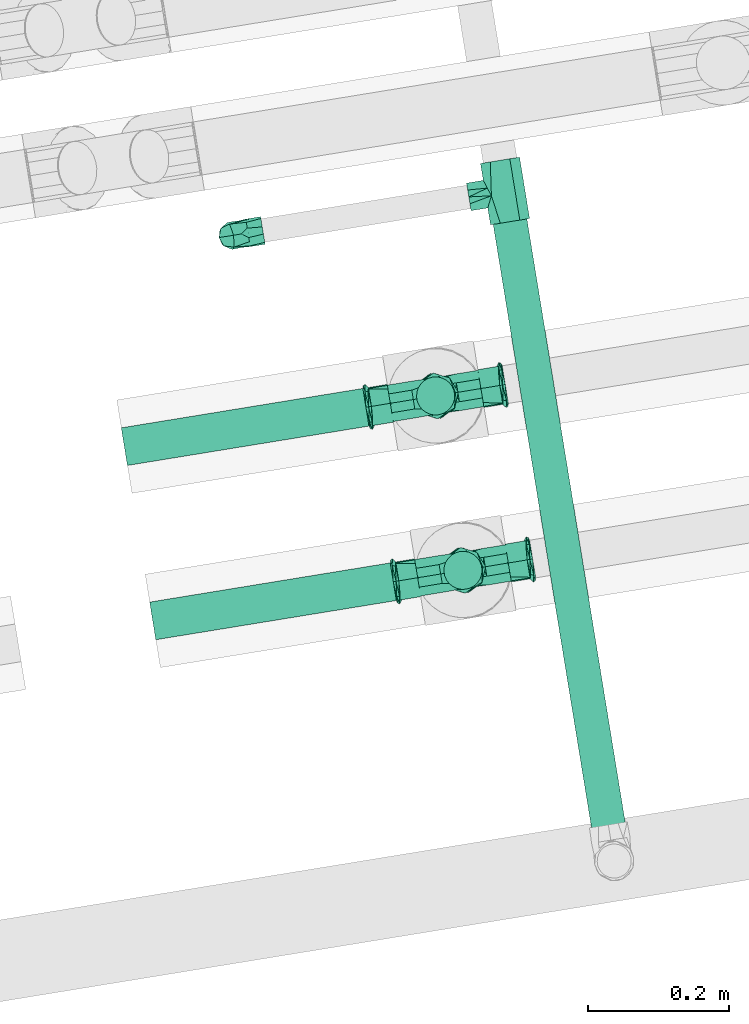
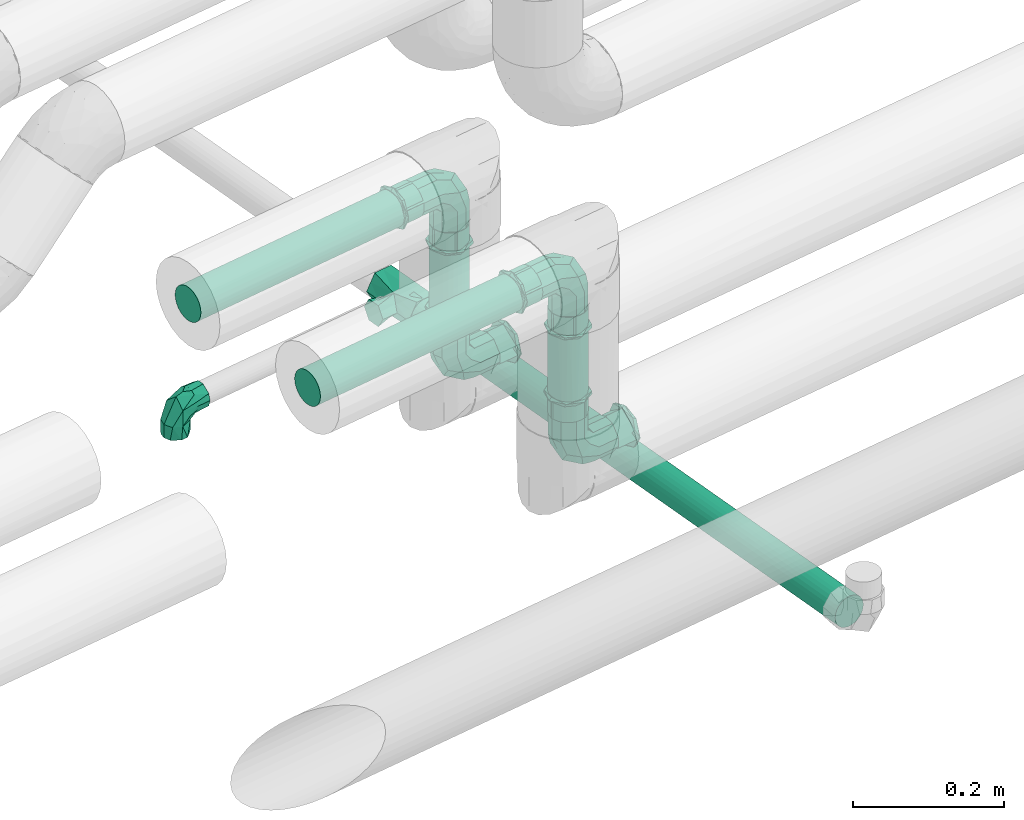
# One storey, part 27 of 56: 6 flow fittings, 5 flow segments.
"""IFC2X3 building model written with IfcOpenShell, lengths in millimetres."""

from ifc_helpers import new_model, entity, si_unit, converted_unit, derived_unit, direction, frame, origin, origin_with_axes, origin_2d_with_axis, place, context, subcontext, project, spatial, circle, extrude, faceted_brep, source, transform, mapped, material, material_list, type_object, element, save


model = new_model("IFC2X3")

# Units and contexts
model_context = context("Model", 3, precision=0.01, world=origin(), true_north=direction((6.12323399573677e-17, 1.0)))
plan_context = context("Plan", 3, precision=1e-05, world=origin_with_axes())
body_context = subcontext(model_context, "Body", "Model", "MODEL_VIEW")
ifc_project = project(units=[converted_unit("PLANEANGLEUNIT", "DEGREE", entity("IfcPositiveLengthMeasure", 0.0174532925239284), si_unit("PLANEANGLEUNIT", "RADIAN"), dimensions=[0, 0, 0, 0, 0, 0, 0]), si_unit("AREAUNIT", "SQUARE_METRE"), si_unit("LENGTHUNIT", "METRE", prefix="MILLI"), si_unit("MASSUNIT", "GRAM", prefix="KILO"), si_unit("POWERUNIT", "WATT"), si_unit("PRESSUREUNIT", "PASCAL", prefix="KILO"), si_unit("FORCEUNIT", "NEWTON", prefix="KILO"), si_unit("ELECTRICVOLTAGEUNIT", "VOLT"), si_unit("ELECTRICCURRENTUNIT", "AMPERE"), si_unit("THERMODYNAMICTEMPERATUREUNIT", "DEGREE_CELSIUS"), si_unit("TIMEUNIT", "SECOND"), si_unit("VOLUMEUNIT", "CUBIC_METRE"), derived_unit("LINEARVELOCITYUNIT", [(si_unit("LENGTHUNIT", "METRE"), 1), (si_unit("TIMEUNIT", "SECOND"), -1)]), derived_unit("VOLUMETRICFLOWRATEUNIT", [(si_unit("VOLUMEUNIT", "CUBIC_METRE"), 1), (si_unit("TIMEUNIT", "SECOND"), -1)]), derived_unit("THERMALTRANSMITTANCEUNIT", [(si_unit("POWERUNIT", "WATT"), 1), (si_unit("THERMODYNAMICTEMPERATUREUNIT", "KELVIN"), -1), (si_unit("AREAUNIT", "SQUARE_METRE"), -1)]), derived_unit("SOUNDPRESSUREUNIT", [(si_unit("PRESSUREUNIT", "PASCAL"), 1)])], contexts=[model_context, plan_context])

# Site, building, storey
site_placement = place(None, frame((-3.09682673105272e-06, 1.93776733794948e-05, 0.0), z_axis=(0.0, 0.0, 1.0), x_axis=(-0.160806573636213, 0.986985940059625, 0.0)))
site = spatial("IfcSite", under=ifc_project, at=site_placement, Name="Default", CompositionType="ELEMENT")
building_placement = place(site_placement, frame((0.0, 0.0, 0.0), z_axis=(0.0, 0.0, 1.0), x_axis=(1.0, -2.77555756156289e-17, 0.0)))
building = spatial("IfcBuilding", under=site, at=building_placement, Name="Bygning (endres i Project Information)", CompositionType="ELEMENT")
storey_placement = place(building_placement, frame((0.0, 0.0, 51360.0000000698), z_axis=(0.0, 0.0, 1.0), x_axis=(1.0, -2.77555756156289e-17, 0.0)))
storey = spatial("IfcBuildingStorey", under=building, at=storey_placement, Name="H01-Nivå D+0,36", CompositionType="ELEMENT", Elevation=51360.0000000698)

# Flow fittings
ifc_material_1 = material(Name="3320.001")
pipe_fitting_type_1 = type_object("IfcPipeFittingType", Name="RS_53_PIF_UN_Tee-Reduced-EN10241_MC_gen:RS_53_PIF_UN_Tee-Reduced-EN10241_MC_gen", PredefinedType="NOTDEFINED", material=ifc_material_1)
shared_shape_1 = source(origin(), body_context, "Body", "Brep", [
    faceted_brep([(44.0, -28.0, 0.0), (44.0, -21.0, -12.124355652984), (44.0, -14.0, -24.2487113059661), (44.0, 0.0, -24.2487113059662), (44.0, 14.0, -24.2487113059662), (44.0, 21.0, -12.1243556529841), (44.0, 28.0, 0.0), (44.0, 21.0, 12.1243556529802), (44.0, 14.0, 24.2487113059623), (44.0, 0.0, 24.2487113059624), (44.0, -14.0, 24.2487113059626), (44.0, -21.0, 12.1243556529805), (-44.0, -28.0, 0.0), (-44.0, -21.0, 12.1243556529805), (-44.0, -14.0, 24.2487113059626), (-44.0, 0.0, 24.2487113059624), (-44.0, 14.0, 24.2487113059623), (-44.0, 21.0, 12.1243556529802), (-44.0, 28.0, 0.0), (-44.0, 20.982647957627, -12.1544102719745), (-44.0, 14.0, -24.2487113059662), (-44.0, 0.0, -24.2487113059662), (-44.0, -14.0, -24.2487113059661), (-44.0, -21.0, -12.124355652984), (3.55028427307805, -20.1628871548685, 19.4282778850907), (11.6501421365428, -24.0814435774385, 9.71413894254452), (-19.7499999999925, -28.0, 0.0), (-8.09985786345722, -24.0814435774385, 9.71413894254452), (19.7500000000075, -28.0, 0.0), (-11.6531711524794, -24.0819773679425, -9.71358493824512), (-3.55634230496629, -20.1639547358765, -19.4271698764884), (8.0968288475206, -24.0819773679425, -9.71358493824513), (9.87500000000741, -52.0, -17.1040017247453), (14.8125000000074, -52.0, -8.55200086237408), (19.7500000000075, -52.0, 0.0), (14.8125000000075, -52.0, 8.55200086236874), (9.87500000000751, -52.0, 17.1040017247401), (0.0, -52.0, 17.1040017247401), (-9.87499999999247, -52.0, 17.1040017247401), (-14.8124999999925, -52.0, 8.55200086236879), (-19.7499999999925, -52.0, 0.0), (-14.8124999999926, -52.0, -8.55200086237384), (-9.87499999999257, -52.0, -17.1040017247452), (0.0, -52.0, -17.1040017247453)], [[[0, 1, 2, 3, 4, 5, 6, 7, 8, 9, 10, 11]], [[12, 13, 14, 15, 16, 17, 18, 19, 20, 21, 22, 23]], [[7, 6, 18, 17, 16, 8]], [[8, 16, 15, 9]], [[15, 14, 24]], [[11, 24, 25]], [[24, 9, 15]], [[12, 26, 13]], [[13, 26, 27, 24]], [[0, 11, 25]], [[0, 25, 28]], [[24, 14, 13]], [[24, 11, 10]], [[9, 24, 10]], [[19, 18, 6, 5, 4, 20]], [[23, 29, 12]], [[30, 1, 28, 31]], [[23, 30, 29]], [[12, 29, 26]], [[1, 0, 28]], [[23, 22, 30]], [[21, 20, 4, 3]], [[30, 21, 3]], [[30, 3, 2]], [[30, 2, 1]], [[21, 30, 22]], [[32, 33, 34, 35, 36, 37, 38, 39, 40, 41, 42, 43]], [[26, 41, 40]], [[29, 42, 41]], [[31, 43, 30]], [[32, 31, 33]], [[30, 42, 29]], [[28, 33, 31]], [[31, 32, 43]], [[34, 33, 28]], [[43, 42, 30]], [[26, 29, 41]], [[28, 35, 34]], [[25, 36, 35]], [[27, 37, 24]], [[38, 27, 39]], [[24, 36, 25]], [[26, 39, 27]], [[27, 38, 37]], [[40, 39, 26]], [[37, 36, 24]], [[28, 25, 35]]]),
])
flow_fitting_1_placement = place(storey_placement, frame((1011558.93557438, -395336.905112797, 3200.0), z_axis=(0.0, 0.0, 1.0), x_axis=(-1.0, 2.77555756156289e-17, 0.0)))
element("IfcFlowFitting", 1, at=flow_fitting_1_placement, inside=storey, type_object=pipe_fitting_type_1, material=ifc_material_1, Name="RS_53_PIF_UN_Tee-Reduced-EN10241_MC_gen:RS_53_PIF_UN_Tee-Reduced-EN10241_MC_gen", ObjectType="RS_53_PIF_UN_Tee-Reduced-EN10241_MC_gen:RS_53_PIF_UN_Tee-Reduced-EN10241_MC_gen", context=body_context, shape_type="MappedRepresentation", body=[
    mapped(shared_shape_1, transform((0.0, 0.0, 0.0), scale=1.0)),
])
pipe_fitting_type_2 = type_object("IfcPipeFittingType", Name="RS_53_PIF_UN_Elbow-EN10241_NOR:RS_53_PIF_UN_Elbow-EN10241_NOR", PredefinedType="NOTDEFINED", material=ifc_material_1)
shared_shape_2 = source(origin(), body_context, "Body", "Brep", [
    faceted_brep([(-43.0, 5.11167614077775, 19.0770350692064), (-43.0, 17.1040017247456, 9.87499999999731), (-43.0, 19.7500000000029, 0.0), (-43.0, 17.1040017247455, -9.87500000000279), (-43.0, 5.11167614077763, -19.0770350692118), (-43.0, -5.11167614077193, -19.0770350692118), (-43.0, -17.1040017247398, -9.87500000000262), (-43.0, -19.7499999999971, 0.0), (-43.0, -17.1040017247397, 9.87499999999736), (-43.0, -5.11167614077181, 19.0770350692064), (-21.7499999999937, -19.7499999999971, 0.0), (-21.7499999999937, -15.1293510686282, -12.6950870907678), (-21.7499999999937, -3.42946974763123, -19.4499675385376), (-21.7499999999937, 15.1294711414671, -12.694943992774), (-21.7499999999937, 19.7500000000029, 0.0), (-21.7499999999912, 5.85000069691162, -16.072455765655), (-21.7499999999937, 15.1294711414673, 12.6949439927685), (-21.7499999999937, 3.42965371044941, 19.4499351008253), (-21.7499999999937, -15.1293510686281, 12.6950870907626), (-5.41688095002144, -10.3200693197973, 0.0), (0.655979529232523, -2.00253561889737, 16.4678355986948), (-11.0449015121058, 9.84579831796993, 18.897380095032), (-18.5589216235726, 21.7499999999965, 6.75491881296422), (-15.1293490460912, 21.7499999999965, 12.6950895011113), (-20.3357864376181, 20.3357864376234, 0.0), (-19.7499999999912, 21.7499999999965, 0.0), (14.190054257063, 1.0, 0.0), (12.6950125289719, 21.7499999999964, 15.1294136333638), (6.75482439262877, 21.7499999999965, 18.5589559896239), (17.2232575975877, 12.3200689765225, 0.0), (-6.754824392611, 21.7499999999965, 18.558955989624), (19.7500000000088, 21.7499999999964, 0.0), (18.5589216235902, 21.7499999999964, 6.75491881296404), (0.0, 21.7499999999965, 19.7499999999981), (-18.5589216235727, 21.7499999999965, -6.75491881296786), (-10.1618436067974, 10.1618877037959, -19.0082217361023), (1.2569166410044, -0.890945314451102, -16.7093898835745), (0.0, 21.7499999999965, -19.7500000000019), (-6.75482439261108, 21.7499999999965, -18.5589559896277), (-12.6950125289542, 21.7499999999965, -15.1294136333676), (18.5589216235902, 21.7499999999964, -6.75491881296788), (15.1293490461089, 21.7499999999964, -12.6950895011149), (6.75482439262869, 21.7499999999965, -18.5589559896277), (-9.8749999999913, 43.0, 17.1040017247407), (0.0, 43.0, 19.7499999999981), (9.8750000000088, 43.0, 17.1040017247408), (19.0770350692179, 43.0, 5.11167614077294), (19.0770350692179, 43.0, -5.11167614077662), (9.87500000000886, 43.0, -17.1040017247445), (0.0, 43.0, -19.7500000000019), (-9.87499999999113, 43.0, -17.1040017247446), (-19.0770350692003, 43.0, -5.11167614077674), (-19.0770350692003, 43.0, 5.11167614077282)], [[[0, 1, 2, 3, 4, 5, 6, 7, 8, 9]], [[7, 6, 10]], [[6, 11, 10]], [[11, 6, 5]], [[11, 5, 12]], [[13, 4, 3]], [[14, 3, 2]], [[4, 13, 15, 12]], [[13, 3, 14]], [[4, 12, 5]], [[2, 1, 14]], [[1, 16, 14]], [[16, 1, 0]], [[16, 0, 17]], [[18, 9, 8]], [[10, 8, 7]], [[9, 18, 17]], [[18, 8, 10]], [[9, 17, 0]], [[18, 19, 20]], [[20, 21, 17]], [[22, 16, 23]], [[16, 17, 21]], [[24, 14, 22]], [[22, 25, 24]], [[14, 16, 22]], [[20, 26, 27]], [[27, 28, 20]], [[26, 29, 27]], [[23, 21, 30]], [[31, 32, 29]], [[18, 20, 17]], [[26, 20, 19]], [[21, 23, 16]], [[18, 10, 19]], [[33, 21, 20]], [[33, 30, 21]], [[27, 29, 32]], [[33, 20, 28]], [[14, 24, 34]], [[25, 34, 24]], [[12, 35, 36]], [[14, 34, 13]], [[36, 19, 11]], [[37, 35, 38]], [[38, 35, 39]], [[10, 11, 19]], [[34, 39, 13]], [[37, 36, 35]], [[36, 11, 12]], [[39, 35, 13]], [[40, 31, 29]], [[41, 36, 42]], [[36, 37, 42]], [[41, 40, 29]], [[26, 36, 41]], [[29, 26, 41]], [[19, 36, 26]], [[13, 35, 12, 15]], [[43, 44, 45, 46, 47, 48, 49, 50, 51, 52]], [[49, 37, 38]], [[50, 38, 39]], [[49, 38, 50]], [[51, 50, 39]], [[51, 34, 25]], [[34, 51, 39]], [[52, 25, 22]], [[22, 23, 52]], [[30, 43, 23]], [[52, 23, 43]], [[44, 43, 30]], [[33, 44, 30]], [[25, 52, 51]], [[44, 33, 28]], [[45, 28, 27]], [[44, 28, 45]], [[46, 45, 27]], [[46, 32, 31]], [[32, 46, 27]], [[47, 31, 40]], [[40, 41, 47]], [[42, 48, 41]], [[47, 41, 48]], [[49, 48, 42]], [[37, 49, 42]], [[31, 47, 46]]]),
])
flow_fitting_2_placement = place(storey_placement, frame((1011558.93557438, -394946.491159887, 3200.0), z_axis=(1.0, -2.77555756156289e-17, 0.0), x_axis=(0.0, 0.0, 1.0)))
element("IfcFlowFitting", 2, at=flow_fitting_2_placement, inside=storey, type_object=pipe_fitting_type_2, material=ifc_material_1, Name="RS_53_PIF_UN_Elbow-EN10241_NOR:RS_53_PIF_UN_Elbow-EN10241_NOR", ObjectType="RS_53_PIF_UN_Elbow-EN10241_NOR:RS_53_PIF_UN_Elbow-EN10241_NOR", context=body_context, shape_type="MappedRepresentation", body=[
    mapped(shared_shape_2, transform((0.0, 0.0, 0.0), scale=1.0)),
])
ifc_material_2 = material(Name="Geberit_Plastic_Red")
ifc_material_3 = material(Name="Geberit_Mapress_C-Steel")
ifc_material_list = material_list([ifc_material_2, ifc_material_3])
pipe_fitting_type_3 = type_object("IfcPipeFittingType", Name="PRO_103184:DN10-100 / d12-108 - OD", PredefinedType="BEND", material=ifc_material_list)
shared_shape_3 = source(origin(), body_context, "Body", "Brep", [
    faceted_brep([(-8.80698433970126, 100.0, -27.1051107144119), (-9.84650783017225, 92.0, -13.552555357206), (-6.27743726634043, 92.0, -16.1456369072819), (8.80698433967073, 92.0, -27.1051107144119), (-15.6876901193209, 100.0, -17.6346316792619), (-28.5000000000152, 92.0, 0.0), (9.84650783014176, 100.0, -13.552555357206), (18.6534921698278, 92.0, -13.552555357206), (28.4999999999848, 92.0, 0.0), (28.4999999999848, 100.0, 0.0), (-28.5000000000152, 100.0, 0.0), (8.80698433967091, 100.0, 27.1051107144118), (9.84650783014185, 92.0, 13.5525553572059), (6.27743726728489, 92.0, 16.1456369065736), (-8.80698433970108, 92.0, 27.1051107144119), (15.6876904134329, 100.0, 17.6346312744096), (-9.84650783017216, 100.0, 13.552555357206), (-18.6534921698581, 92.0, 13.5525553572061), (-23.6776285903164, 98.4509619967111, -21.0189790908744), (-23.6307699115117, 94.6274304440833, -21.9569893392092), (-32.5000000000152, 96.0, 0.0), (-1.90597797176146, 95.9349964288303, -32.4435342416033), (23.6776286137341, 93.5490379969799, -21.0189790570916), (32.4999999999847, 96.0, 0.0), (-6.15280214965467, 98.7902501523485, -30.7567062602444), (22.1275082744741, 97.7912013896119, -23.222347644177), (23.6776285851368, 98.4509619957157, 21.0189790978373), (23.6307699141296, 94.6274304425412, 21.9569893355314), (1.90597798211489, 95.9349964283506, 32.4435342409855), (-23.6776286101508, 93.5490379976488, 21.0189790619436), (6.15280214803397, 98.7902501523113, 30.7567062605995), (-22.1275082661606, 97.7912013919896, 23.2223476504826)], [[[0, 1, 2, 3]], [[4, 1, 0]], [[4, 5, 1]], [[6, 0, 3]], [[6, 3, 7]], [[7, 8, 9]], [[4, 10, 5]], [[6, 7, 9]], [[11, 12, 13, 14]], [[15, 8, 12]], [[15, 12, 11]], [[16, 14, 17]], [[17, 5, 10]], [[16, 17, 10]], [[15, 9, 8]], [[16, 11, 14]], [[18, 10, 4, 0]], [[19, 2, 1, 5]], [[18, 19, 20]], [[3, 2, 21]], [[5, 20, 19]], [[3, 21, 22]], [[23, 8, 22]], [[19, 18, 21]], [[20, 10, 18]], [[22, 8, 7, 3]], [[0, 24, 18]], [[25, 23, 22]], [[21, 2, 19]], [[24, 6, 25]], [[25, 22, 21]], [[25, 21, 24]], [[9, 23, 25]], [[21, 18, 24]], [[6, 24, 0]], [[6, 9, 25]], [[26, 9, 15, 11]], [[27, 13, 12, 8]], [[26, 27, 23]], [[14, 13, 28]], [[8, 23, 27]], [[14, 28, 29]], [[20, 5, 29]], [[27, 26, 28]], [[23, 9, 26]], [[29, 5, 17, 14]], [[11, 30, 26]], [[31, 20, 29]], [[28, 13, 27]], [[30, 16, 31]], [[31, 29, 28]], [[31, 28, 30]], [[10, 20, 31]], [[28, 26, 30]], [[16, 30, 11]], [[16, 10, 31]]]),
    faceted_brep([(-8.3434588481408, 100.0, -25.6785259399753), (-9.32827057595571, 64.0, -12.8392629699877), (-0.492405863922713, 64.0, -19.2588944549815), (8.34345884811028, 64.0, -25.6785259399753), (-15.3088252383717, 100.0, -16.0915215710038), (-27.0, 64.0, 0.0), (-18.1641352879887, 64.0, -6.41963148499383), (-27.0, 100.0, 0.0), (9.32827057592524, 100.0, -12.8392629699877), (13.0075941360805, 64.0, -19.2588944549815), (17.6717294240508, 64.0, -12.8392629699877), (27.0, 100.0, 0.0), (22.335864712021, 64.0, -6.4196314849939), (27.0, 64.0, 0.0), (8.34345884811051, 100.0, 25.6785259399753), (9.32827057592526, 64.0, 12.8392629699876), (0.492405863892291, 64.0, 19.2588944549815), (-8.34345884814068, 64.0, 25.6785259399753), (15.3088252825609, 100.0, 16.0915215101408), (18.1641352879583, 64.0, 6.41963148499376), (-9.32827057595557, 100.0, 12.8392629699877), (-13.0075941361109, 64.0, 19.2588944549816), (-17.6717294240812, 64.0, 12.8392629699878), (-22.3358647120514, 64.0, 6.419631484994), (28.4999999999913, 100.0, 0.0), (9.84650783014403, 100.0, -13.5525553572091), (-8.80698433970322, 100.0, -27.105110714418), (18.6534921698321, 100.0, 13.5525553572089), (8.80698433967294, 100.0, 27.105110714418), (-18.6534921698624, 100.0, -13.552555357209), (-28.5000000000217, 100.0, 0.0), (-9.84650783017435, 100.0, 13.5525553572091), (-18.6534921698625, 65.0, -13.552555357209), (-23.5767460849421, 65.0, -6.7762776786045), (-28.5000000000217, 65.0, 0.0), (-8.80698433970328, 65.0, -27.105110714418), (-13.7302382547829, 65.0, -20.3288330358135), (28.4999999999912, 65.0, 0.0), (19.1732539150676, 65.0, -6.77627767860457), (12.3186749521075, 65.0, -11.7564208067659), (9.84650783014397, 65.0, -13.5525553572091), (0.519761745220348, 65.0, -20.3288330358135), (18.6534921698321, 65.0, 13.5525553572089), (23.5767460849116, 65.0, 6.77627767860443), (8.80698433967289, 65.0, 27.105110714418), (13.7302382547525, 65.0, 20.3288330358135), (-19.1732539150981, 65.0, 6.77627767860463), (-12.3186749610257, 65.0, 11.7564208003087), (-9.84650783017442, 65.0, 13.5525553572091), (-0.519761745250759, 65.0, 20.3288330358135)], [[[0, 1, 2, 3]], [[4, 5, 6, 1]], [[4, 7, 5]], [[8, 3, 9, 10]], [[11, 10, 12, 13]], [[8, 10, 11]], [[8, 0, 3]], [[4, 1, 0]], [[14, 15, 16, 17]], [[18, 13, 19, 15]], [[18, 11, 13]], [[20, 17, 21, 22]], [[7, 22, 23, 5]], [[20, 22, 7]], [[20, 14, 17]], [[18, 15, 14]], [[11, 24, 25]], [[11, 25, 26]], [[26, 8, 11]], [[11, 27, 24]], [[11, 28, 27]], [[28, 11, 18]], [[28, 18, 14]], [[28, 14, 20]], [[28, 20, 7]], [[7, 26, 29]], [[26, 7, 4]], [[7, 29, 30]], [[7, 30, 31]], [[7, 31, 28]], [[26, 4, 0]], [[26, 0, 8]], [[32, 33, 34, 30, 29, 26, 35, 36]], [[24, 37, 38, 39, 40, 41, 35, 26, 25]], [[42, 43, 37, 24, 27, 28, 44, 45]], [[30, 34, 46, 47, 48, 49, 44, 28, 31]], [[1, 6, 32]], [[34, 33, 5]], [[5, 33, 6]], [[36, 35, 1, 32]], [[10, 40, 39, 38]], [[9, 3, 40, 10]], [[6, 33, 32]], [[41, 2, 35]], [[38, 12, 10]], [[2, 41, 3]], [[37, 12, 38]], [[13, 12, 37]], [[40, 3, 41]], [[35, 2, 1]], [[15, 19, 42]], [[37, 43, 13]], [[13, 43, 19]], [[45, 44, 15, 42]], [[22, 48, 47, 46]], [[21, 17, 48, 22]], [[19, 43, 42]], [[49, 16, 44]], [[46, 23, 22]], [[16, 49, 17]], [[34, 23, 46]], [[5, 23, 34]], [[48, 17, 49]], [[44, 16, 15]]]),
    faceted_brep([(-100.0, -8.8069843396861, -27.1051107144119), (-92.0, -9.84650783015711, -13.552555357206), (-92.0, -6.27743726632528, -16.1456369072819), (-92.0, 8.80698433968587, -27.1051107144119), (-100.0, -15.6876901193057, -17.6346316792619), (-92.0, -28.5000000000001, 0.0), (-100.0, 9.84650783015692, -13.552555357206), (-92.0, 18.6534921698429, -13.552555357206), (-92.0, 28.4999999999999, 0.0), (-100.0, 28.4999999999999, 0.0), (-100.0, -28.5000000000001, 0.0), (-100.0, 8.80698433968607, 27.1051107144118), (-92.0, 9.84650783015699, 13.5525553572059), (-92.0, 6.27743726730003, 16.1456369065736), (-92.0, -8.80698433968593, 27.1051107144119), (-100.0, 15.687690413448, 17.6346312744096), (-100.0, -9.846507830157, 13.552555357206), (-92.0, -18.653492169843, 13.5525553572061), (-98.4509619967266, -23.6776285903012, -21.0189790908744), (-94.6274304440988, -23.6307699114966, -21.9569893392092), (-96.0, -32.5, 0.0), (-95.9349964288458, -1.90597797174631, -32.4435342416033), (-93.5490379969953, 23.6776286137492, -21.0189790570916), (-96.0, 32.4999999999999, 0.0), (-98.790250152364, -6.15280214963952, -30.7567062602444), (-97.7912013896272, 22.1275082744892, -23.222347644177), (-98.4509619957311, 23.677628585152, 21.0189790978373), (-94.6274304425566, 23.6307699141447, 21.9569893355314), (-95.934996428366, 1.90597798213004, 32.4435342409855), (-93.5490379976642, -23.6776286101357, 21.0189790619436), (-98.7902501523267, 6.15280214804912, 30.7567062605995), (-97.7912013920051, -22.1275082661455, 23.2223476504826)], [[[0, 1, 2, 3]], [[4, 1, 0]], [[4, 5, 1]], [[6, 0, 3]], [[6, 3, 7]], [[7, 8, 9]], [[4, 10, 5]], [[6, 7, 9]], [[11, 12, 13, 14]], [[15, 8, 12]], [[15, 12, 11]], [[16, 14, 17]], [[17, 5, 10]], [[16, 17, 10]], [[15, 9, 8]], [[16, 11, 14]], [[18, 10, 4, 0]], [[19, 2, 1, 5]], [[18, 19, 20]], [[3, 2, 21]], [[5, 20, 19]], [[3, 21, 22]], [[23, 8, 22]], [[19, 18, 21]], [[20, 10, 18]], [[22, 8, 7, 3]], [[0, 24, 18]], [[25, 23, 22]], [[21, 2, 19]], [[24, 6, 25]], [[25, 22, 21]], [[25, 21, 24]], [[9, 23, 25]], [[21, 18, 24]], [[6, 24, 0]], [[6, 9, 25]], [[26, 9, 15, 11]], [[27, 13, 12, 8]], [[26, 27, 23]], [[14, 13, 28]], [[8, 23, 27]], [[14, 28, 29]], [[20, 5, 29]], [[27, 26, 28]], [[23, 9, 26]], [[29, 5, 17, 14]], [[11, 30, 26]], [[31, 20, 29]], [[28, 13, 27]], [[30, 16, 31]], [[31, 29, 28]], [[31, 28, 30]], [[10, 20, 31]], [[28, 26, 30]], [[16, 30, 11]], [[16, 10, 31]]]),
    faceted_brep([(-100.0, -8.34345884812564, -25.6785259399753), (-64.0, -9.32827057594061, -12.8392629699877), (-64.0, -0.492405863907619, -19.2588944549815), (-64.0, 8.34345884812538, -25.6785259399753), (-100.0, -15.3088252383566, -16.0915215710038), (-64.0, -27.0, 0.0), (-64.0, -18.1641352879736, -6.41963148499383), (-100.0, -27.0, 0.0), (-100.0, 9.32827057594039, -12.8392629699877), (-64.0, 13.0075941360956, -19.2588944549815), (-64.0, 17.6717294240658, -12.8392629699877), (-100.0, 27.0, 0.0), (-64.0, 22.3358647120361, -6.4196314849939), (-64.0, 27.0, 0.0), (-100.0, 8.34345884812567, 25.6785259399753), (-64.0, 9.32827057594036, 12.8392629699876), (-64.0, 0.492405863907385, 19.2588944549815), (-64.0, -8.34345884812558, 25.6785259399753), (-100.0, 15.3088252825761, 16.0915215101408), (-64.0, 18.1641352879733, 6.41963148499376), (-100.0, -9.32827057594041, 12.8392629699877), (-64.0, -13.0075941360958, 19.2588944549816), (-64.0, -17.6717294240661, 12.8392629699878), (-64.0, -22.3358647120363, 6.419631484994), (-100.0, 28.5000000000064, 0.0), (-100.0, 9.84650783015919, -13.5525553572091), (-100.0, -8.80698433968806, -27.105110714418), (-100.0, 18.6534921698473, 13.5525553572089), (-100.0, 8.80698433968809, 27.105110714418), (-100.0, -18.6534921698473, -13.552555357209), (-100.0, -28.5000000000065, 0.0), (-100.0, -9.84650783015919, 13.5525553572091), (-65.0, -18.6534921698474, -13.552555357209), (-65.0, -23.576746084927, -6.7762776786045), (-65.0, -28.5000000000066, 0.0), (-65.0, -8.80698433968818, -27.105110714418), (-65.0, -13.7302382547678, -20.3288330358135), (-65.0, 28.5000000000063, 0.0), (-65.0, 19.1732539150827, -6.77627767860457), (-65.0, 12.3186749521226, -11.7564208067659), (-65.0, 9.84650783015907, -13.5525553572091), (-65.0, 0.519761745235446, -20.3288330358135), (-65.0, 18.6534921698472, 13.5525553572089), (-65.0, 23.5767460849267, 6.77627767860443), (-65.0, 8.80698433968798, 27.105110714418), (-65.0, 13.7302382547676, 20.3288330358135), (-65.0, -19.173253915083, 6.77627767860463), (-65.0, -12.3186749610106, 11.7564208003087), (-65.0, -9.84650783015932, 13.5525553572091), (-65.0, -0.519761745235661, 20.3288330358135)], [[[0, 1, 2, 3]], [[4, 5, 6, 1]], [[4, 7, 5]], [[8, 3, 9, 10]], [[11, 10, 12, 13]], [[8, 10, 11]], [[8, 0, 3]], [[4, 1, 0]], [[14, 15, 16, 17]], [[18, 13, 19, 15]], [[18, 11, 13]], [[20, 17, 21, 22]], [[7, 22, 23, 5]], [[20, 22, 7]], [[20, 14, 17]], [[18, 15, 14]], [[11, 24, 25]], [[11, 25, 26]], [[26, 8, 11]], [[11, 27, 24]], [[11, 28, 27]], [[28, 11, 18]], [[28, 18, 14]], [[28, 14, 20]], [[28, 20, 7]], [[7, 26, 29]], [[26, 7, 4]], [[7, 29, 30]], [[7, 30, 31]], [[7, 31, 28]], [[26, 4, 0]], [[26, 0, 8]], [[32, 33, 34, 30, 29, 26, 35, 36]], [[24, 37, 38, 39, 40, 41, 35, 26, 25]], [[42, 43, 37, 24, 27, 28, 44, 45]], [[30, 34, 46, 47, 48, 49, 44, 28, 31]], [[1, 6, 32]], [[34, 33, 5]], [[5, 33, 6]], [[36, 35, 1, 32]], [[10, 40, 39, 38]], [[9, 3, 40, 10]], [[6, 33, 32]], [[41, 2, 35]], [[38, 12, 10]], [[2, 41, 3]], [[37, 12, 38]], [[13, 12, 37]], [[40, 3, 41]], [[35, 2, 1]], [[15, 19, 42]], [[37, 43, 13]], [[13, 43, 19]], [[45, 44, 15, 42]], [[22, 48, 47, 46]], [[21, 17, 48, 22]], [[19, 43, 42]], [[49, 16, 44]], [[46, 23, 22]], [[16, 49, 17]], [[34, 23, 46]], [[5, 23, 34]], [[48, 17, 49]], [[44, 16, 15]]]),
    faceted_brep([(-65.0, -27.0, 0.0), (-65.0, -23.38268590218, 13.4999999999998), (-65.0, -6.98811421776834, 26.0799973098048), (-65.0, 6.98811421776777, 26.0799973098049), (-65.0, 23.3826859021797, 13.5000000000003), (-65.0, 27.0, 0.0), (-65.0, 23.3826859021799, -13.5), (-65.0, 6.98811421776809, -26.0799973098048), (-65.0, -6.98811421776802, -26.0799973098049), (-65.0, -23.3826859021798, -13.5000000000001), (-32.0, -27.0, 0.0), (-32.0, -23.38268590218, 13.4999999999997), (-32.0, -6.98811421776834, 26.0799973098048), (-32.0, 6.98811421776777, 26.0799973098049), (6.98811421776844, 65.0, 26.0799973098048), (-6.98811421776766, 65.0, 26.0799973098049), (-6.98811421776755, 32.0, 26.079997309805), (6.98811421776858, 32.0, 26.0799973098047), (-32.0, 23.3826859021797, 13.5000000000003), (-32.0, 27.0, 0.0), (-32.0, 23.3826859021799, -13.5), (-32.0, 6.98811421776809, -26.0799973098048), (-32.0, -6.98811421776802, -26.0799973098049), (-6.98811421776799, 65.0, -26.0799973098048), (6.98811421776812, 65.0, -26.0799973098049), (6.98811421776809, 32.0, -26.0799973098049), (-6.98811421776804, 32.0, -26.0799973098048), (-32.0, -23.3826859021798, -13.5000000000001), (16.9310720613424, 7.69145761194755, 0.0), (27.0, 32.0, 0.0), (23.3826859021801, 32.0, 13.4999999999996), (16.2465635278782, 10.9007021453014, 17.3847310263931), (-3.16179884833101, 3.16179622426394, 25.5313980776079), (-7.69145902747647, -16.931072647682, 0.0), (-10.9007067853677, -16.2465642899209, 17.3847324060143), (-28.4644660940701, 28.4644660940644, 0.0), (-23.3826859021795, 32.0, 13.5000000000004), (-17.4984421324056, 17.498441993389, 24.4323725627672), (9.71930008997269, -9.71930009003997, 0.0), (-27.0, 32.0, 0.0), (16.2465630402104, 10.9007037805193, -17.3847323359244), (23.3826859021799, 32.0, -13.5), (-17.4984431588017, 17.4984410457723, -24.4323725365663), (-3.16179542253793, 3.16179350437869, -25.5313965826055), (-10.9007057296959, -16.2465641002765, -17.384732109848), (-23.3826859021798, 32.0, -13.5), (-23.3826859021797, 65.0, -13.5), (-27.0, 65.0, 0.0), (-23.3826859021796, 65.0, 13.5000000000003), (23.3826859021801, 65.0, 13.4999999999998), (27.0, 65.0, 0.0), (23.3826859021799, 65.0, -13.5000000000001)], [[[0, 1, 2, 3, 4, 5, 6, 7, 8, 9]], [[0, 10, 11, 1]], [[1, 11, 12, 2]], [[12, 13, 3, 2]], [[14, 15, 16, 17]], [[3, 13, 18, 4]], [[4, 18, 19, 5]], [[5, 19, 20, 6]], [[6, 20, 21, 7]], [[21, 22, 8, 7]], [[23, 24, 25, 26]], [[8, 22, 27, 9]], [[9, 27, 10, 0]], [[28, 29, 30]], [[31, 28, 30]], [[13, 12, 32]], [[11, 33, 34]], [[17, 32, 31]], [[35, 18, 36]], [[31, 32, 34]], [[35, 19, 18]], [[18, 13, 37]], [[34, 12, 11]], [[34, 38, 31]], [[30, 17, 31]], [[32, 37, 13]], [[11, 10, 33]], [[31, 38, 28]], [[18, 37, 36]], [[35, 36, 39]], [[38, 34, 33]], [[36, 37, 16]], [[16, 37, 32]], [[32, 12, 34]], [[17, 16, 32]], [[40, 25, 41]], [[33, 10, 27]], [[42, 21, 20]], [[21, 42, 43]], [[27, 22, 44]], [[43, 42, 26]], [[33, 44, 38]], [[22, 21, 43]], [[44, 43, 40]], [[38, 40, 28]], [[20, 19, 35]], [[35, 39, 45]], [[45, 42, 20]], [[41, 29, 28]], [[26, 42, 45]], [[22, 43, 44]], [[41, 28, 40]], [[44, 40, 38]], [[43, 25, 40]], [[44, 33, 27]], [[25, 43, 26]], [[45, 20, 35]], [[23, 46, 47, 48, 15, 14, 49, 50, 51, 24]], [[29, 50, 49, 30]], [[30, 49, 14, 17]], [[16, 15, 48, 36]], [[36, 48, 47, 39]], [[39, 47, 46, 45]], [[45, 46, 23, 26]], [[25, 24, 51, 41]], [[41, 51, 50, 29]]]),
])
for number, where, z_axis, x_axis in (
    (3, (1011038.43684281, -395191.757301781, 3300.0), (1.0, -2.77555756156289e-17, 0.0), (2.77555756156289e-17, 1.0, 0.0)),
    (4, (1011038.43684281, -395191.757301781, 3600.0), (-1.0, 2.77555756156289e-17, 0.0), (0.0, 0.0, 1.0)),
    (5, (1011288.40480845, -395193.225267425, 3300.0), (1.0, -2.77555756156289e-17, 0.0), (2.77555756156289e-17, 1.0, 0.0)),
    (6, (1011288.40480845, -395193.225267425, 3600.0), (-1.0, 2.77555756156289e-17, 0.0), (0.0, 0.0, 1.0)),
):
    element("IfcFlowFitting", number, at=place(storey_placement, frame(where, z_axis=z_axis, x_axis=x_axis)), inside=storey, type_object=pipe_fitting_type_3, material=ifc_material_list, Name="PRO_103184:DN10-100 / d12-108 - OD", ObjectType="PRO_103184:DN10-100 / d12-108 - OD", context=body_context, shape_type="MappedRepresentation", body=[
        mapped(shared_shape_3, transform((0.0, 0.0, 0.0), scale=1.0)),
    ])

# Flow segments
pipe_segment_type_1 = type_object("IfcPipeSegmentType", Name="Pipe Types:Stålrør sveist og gjenget", PredefinedType="NOTDEFINED", material=ifc_material_1)
flow_segment_1_placement = place(storey_placement, frame((0.0, 0.0, 0.0), z_axis=(0.0, 0.0, 1.0), x_axis=(1.0, -2.77555756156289e-17, 0.0)))
element("IfcFlowSegment", 7, at=flow_segment_1_placement, inside=storey, type_object=pipe_segment_type_1, Name="Pipe Types:Stålrør sveist og gjenget", ObjectType="Pipe Types:Stålrør sveist og gjenget", context=body_context, shape_type="SweptSolid", body=[
    extrude(circle(Radius=24.1499996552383, at=origin_2d_with_axis()), frame((1010627.87927671, -395336.905112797, 3200.0), z_axis=(1.0, 0.0, 0.0), x_axis=(0.0, 1.0, 0.0)), (0.0, 0.0, 1.0), 908.456297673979),
])
ifc_material_4 = material(Name="3200.005 Tur")
pipe_segment_type_2 = type_object("IfcPipeSegmentType", Name="Pipe Types:Pressfittingssystem MM", PredefinedType="NOTDEFINED", material=ifc_material_4)
flow_segment_2_placement = place(storey_placement, frame((0.0, 0.0, 0.0), z_axis=(0.0, 0.0, 1.0), x_axis=(1.0, -2.77555756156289e-17, 0.0)))
element("IfcFlowSegment", 8, at=flow_segment_2_placement, inside=storey, type_object=pipe_segment_type_2, Name="Pipe Types:Pressfittingssystem MM", ObjectType="Pipe Types:Pressfittingssystem MM", context=body_context, shape_type="SweptSolid", body=[
    extrude(circle(Radius=27.00000004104, at=origin_2d_with_axis()), frame((1011288.40480845, -395128.225267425, 3600.0), z_axis=(0.0, 1.0, 0.0), x_axis=(1.0, 0.0, 0.0)), (0.0, 0.0, 1.0), 381.467965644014),
])
flow_segment_3_placement = place(storey_placement, frame((0.0, 0.0, 0.0), z_axis=(0.0, 0.0, 1.0), x_axis=(1.0, -2.77555756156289e-17, 0.0)))
element("IfcFlowSegment", 9, at=flow_segment_3_placement, inside=storey, type_object=pipe_segment_type_2, Name="Pipe Types:Pressfittingssystem MM", ObjectType="Pipe Types:Pressfittingssystem MM", context=body_context, shape_type="SweptSolid", body=[
    extrude(circle(Radius=27.00000004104, at=origin_2d_with_axis()), frame((1011038.43684281, -395126.757301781, 3600.0), z_axis=(0.0, 1.0, 0.0), x_axis=(1.0, 0.0, 0.0)), (0.0, 0.0, 1.0), 380.000000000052),
])
flow_segment_4_placement = place(storey_placement, frame((0.0, 0.0, 0.0), z_axis=(0.0, 0.0, 1.0), x_axis=(1.0, -2.77555756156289e-17, 0.0)))
element("IfcFlowSegment", 10, at=flow_segment_4_placement, inside=storey, type_object=pipe_segment_type_2, Name="Pipe Types:Pressfittingssystem MM", ObjectType="Pipe Types:Pressfittingssystem MM", context=body_context, shape_type="SweptSolid", body=[
    extrude(circle(Radius=27.00000004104, at=origin_2d_with_axis()), frame((1011038.43684281, -395191.757301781, 3365.0), z_axis=(0.0, 0.0, 1.0), x_axis=(-1.0, 0.0, 0.0)), (0.0, 0.0, 1.0), 169.999999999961),
])
flow_segment_5_placement = place(storey_placement, frame((0.0, 0.0, 0.0), z_axis=(0.0, 0.0, 1.0), x_axis=(1.0, -2.77555756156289e-17, 0.0)))
element("IfcFlowSegment", 11, at=flow_segment_5_placement, inside=storey, type_object=pipe_segment_type_2, Name="Pipe Types:Pressfittingssystem MM", ObjectType="Pipe Types:Pressfittingssystem MM", context=body_context, shape_type="SweptSolid", body=[
    extrude(circle(Radius=27.00000004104, at=origin_2d_with_axis()), frame((1011288.40480845, -395193.225267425, 3365.0), z_axis=(0.0, 0.0, 1.0), x_axis=(-1.0, 0.0, 0.0)), (0.0, 0.0, 1.0), 169.999999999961),
])

save(model, "model.ifc")
